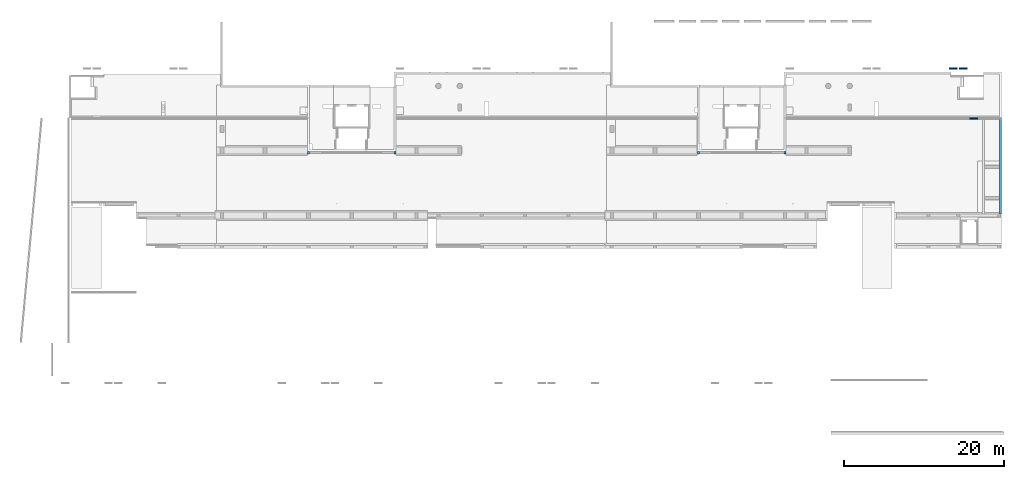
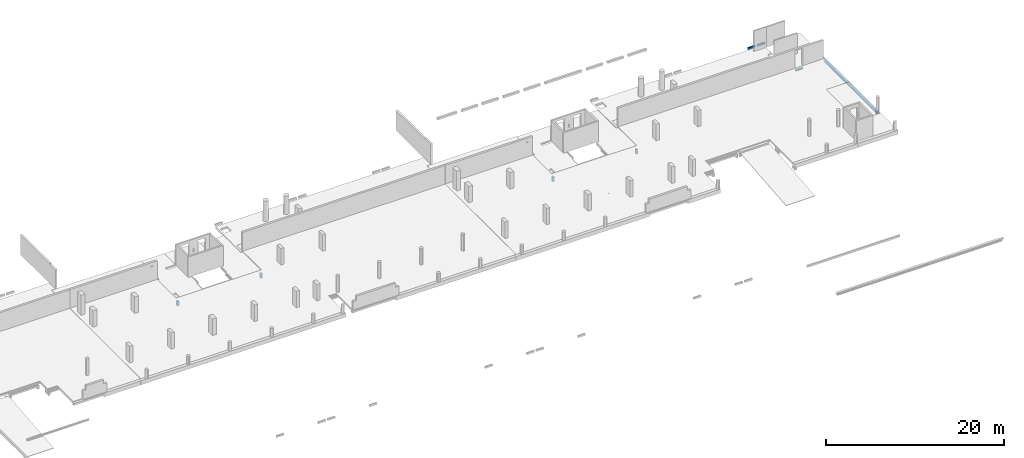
# One storey, part 3 of 10: 8 beams.
"""IFC2X3 building model written with IfcOpenShell, lengths in millimetres."""

from ifc_helpers import new_model, entity, si_unit, converted_unit, derived_unit, direction, frame, frame_2d, origin, place, context, subcontext, project, spatial, polyline, circle_curve, parameter, trimmed, segment, composite_curve, rectangle, i_section, outline, extrude, material, type_object, element, save


model = new_model("IFC2X3")

# Units and contexts
model_context = context("Model", 3, precision=0.01, world=origin(), true_north=direction((6.12303176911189e-17, 1.0)))
body_context = subcontext(model_context, "Body", "Model", "MODEL_VIEW")
ifc_project = project(units=[si_unit("LENGTHUNIT", "METRE", prefix="MILLI"), si_unit("AREAUNIT", "SQUARE_METRE"), si_unit("VOLUMEUNIT", "CUBIC_METRE"), converted_unit("PLANEANGLEUNIT", "DEGREE", entity("IfcRatioMeasure", 0.0174532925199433), si_unit("PLANEANGLEUNIT", "RADIAN"), dimensions=[0, 0, 0, 0, 0, 0, 0]), si_unit("MASSUNIT", "GRAM", prefix="KILO"), derived_unit("MASSDENSITYUNIT", [(si_unit("MASSUNIT", "GRAM", prefix="KILO"), 1), (si_unit("LENGTHUNIT", "METRE"), -3)]), si_unit("TIMEUNIT", "SECOND"), si_unit("FREQUENCYUNIT", "HERTZ"), si_unit("THERMODYNAMICTEMPERATUREUNIT", "DEGREE_CELSIUS"), derived_unit("THERMALTRANSMITTANCEUNIT", [(si_unit("MASSUNIT", "GRAM", prefix="KILO"), 1), (si_unit("THERMODYNAMICTEMPERATUREUNIT", "KELVIN"), -1), (si_unit("TIMEUNIT", "SECOND"), -3)]), derived_unit("VOLUMETRICFLOWRATEUNIT", [(si_unit("LENGTHUNIT", "METRE"), 3), (si_unit("TIMEUNIT", "SECOND"), -1)]), si_unit("ELECTRICCURRENTUNIT", "AMPERE"), si_unit("ELECTRICVOLTAGEUNIT", "VOLT"), si_unit("POWERUNIT", "WATT"), si_unit("FORCEUNIT", "NEWTON", prefix="KILO"), si_unit("ILLUMINANCEUNIT", "LUX"), si_unit("LUMINOUSFLUXUNIT", "LUMEN"), si_unit("LUMINOUSINTENSITYUNIT", "CANDELA"), derived_unit("USERDEFINED", [(si_unit("MASSUNIT", "GRAM", prefix="KILO"), -1), (si_unit("LENGTHUNIT", "METRE"), -2), (si_unit("TIMEUNIT", "SECOND"), 3), (si_unit("LUMINOUSFLUXUNIT", "LUMEN"), 1)]), derived_unit("LINEARVELOCITYUNIT", [(si_unit("LENGTHUNIT", "METRE"), 1), (si_unit("TIMEUNIT", "SECOND"), -1)]), si_unit("PRESSUREUNIT", "PASCAL"), derived_unit("USERDEFINED", [(si_unit("LENGTHUNIT", "METRE"), -2), (si_unit("MASSUNIT", "GRAM", prefix="KILO"), 1), (si_unit("TIMEUNIT", "SECOND"), -2)])], contexts=[model_context])

# Site, building, storey
site_placement = place(None, origin())
site = spatial("IfcSite", under=ifc_project, at=site_placement, Name="Default", CompositionType="ELEMENT")
building_placement = place(site_placement, origin())
building = spatial("IfcBuilding", under=site, at=building_placement, Name="niet gebruiken", CompositionType="ELEMENT")
storey_placement = place(building_placement, frame((0.0, 0.0, 6610.0)))
storey = spatial("IfcBuildingStorey", under=building, at=storey_placement, Name="01c derde tussenverdieping", CompositionType="ELEMENT", Elevation=6610.0)

# Beams
ifc_material_1 = material(Name="NLRS_h2_staal")
beam_type_1 = type_object("IfcBeamType", Name="NLRS_28.11_SF_WPB_stalen ligger hoekprofiel gelijkzijdig_gen:ligger gelijzijdig hoekprofiel LEQU_200x200x15", PredefinedType="BEAM")
beam_1_placement = place(storey_placement, frame((120225.0, 40968.5, -145.0)))
element("IfcBeam", 1, at=beam_1_placement, inside=storey, type_object=beam_type_1, material=ifc_material_1, Name="NLRS_28.11_SF_WPB_stalen ligger hoekprofiel gelijkzijdig_gen:ligger gelijzijdig hoekprofiel LEQU_200x200x15", ObjectType="NLRS_28.11_SF_WPB_stalen ligger hoekprofiel gelijkzijdig_gen:ligger gelijzijdig hoekprofiel LEQU_200x200x15", context=body_context, shape_type="SweptSolid", body=[
    extrude(outline(composite_curve([segment(polyline([(66.3333333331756, -126.666666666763), (73.3333333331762, -126.666666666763)]), True, "CONTINUOUS"), segment(polyline([(73.3333333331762, -126.666666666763), (73.3333333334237, 73.3333333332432)]), True, "CONTINUOUS"), segment(polyline([(73.3333333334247, 73.3333333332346), (-126.666666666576, 73.3333333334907)]), True, "CONTINUOUS"), segment(polyline([(-126.666666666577, 73.3333333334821), (-126.666666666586, 66.3333333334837)]), True, "CONTINUOUS"), segment(trimmed(circle_curve(frame_2d((-118.666666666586, 66.3333333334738), x_axis=(-1.0, 0.0)), 7.99999999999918), [parameter(0.0)], [parameter(90.0000000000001)], True, "PARAMETER"), True, "CONTINUOUS"), segment(polyline([(-118.666666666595, 58.3333333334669), (42.3333333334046, 58.3333333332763)]), True, "CONTINUOUS"), segment(trimmed(circle_curve(frame_2d((42.333333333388, 42.33333333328), x_axis=(0.0, 1.0)), 15.9999999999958), [parameter(269.999999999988)], [parameter(0.0)], True, "PARAMETER"), False, "CONTINUOUS"), segment(polyline([(58.3333333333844, 42.3333333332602), (58.3333333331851, -118.666666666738)]), True, "CONTINUOUS"), segment(trimmed(circle_curve(frame_2d((66.3333333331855, -118.666666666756), x_axis=(-1.0, 0.0)), 7.99999999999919), [parameter(0.0)], [parameter(90.0000000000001)], True, "PARAMETER"), True, "CONTINUOUS")], self_intersect=False)), frame((0.0, 19.166666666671, -126.666666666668), z_axis=(1.0, 0.0, 0.0), x_axis=(0.0, 0.0, -1.0)), (0.0, 0.0, 1.0), 1025.00000000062),
])
ifc_material_2 = material(Name="NLRS_f2_beton ihwg")
beam_type_2 = type_object("IfcBeamType", Name="NLRS_28.11_SF_WPB_oplegnok ihwg beton_gen:620x250", PredefinedType="BEAM")
beam_2_placement = place(storey_placement, frame((37800.0, 36856.0, -330.0), z_axis=(0.0, 0.0, 1.0), x_axis=(0.0, -1.0, 0.0)))
element("IfcBeam", 2, at=beam_2_placement, inside=storey, type_object=beam_type_2, material=ifc_material_2, Name="NLRS_28.11_SF_WPB_oplegnok ihwg beton_gen:620x250", ObjectType="NLRS_28.11_SF_WPB_oplegnok ihwg beton_gen:620x250", context=body_context, shape_type="SweptSolid", body=[
    extrude(rectangle(XDim=620.000000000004, YDim=249.999999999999, at=frame_2d((5.40012479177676e-13, -2.16715534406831e-12), x_axis=(1.0, 0.0))), frame((0.0, 0.0, -310.0), z_axis=(1.0, 0.0, 0.0), x_axis=(0.0, 0.0, -1.0)), (0.0, 0.0, 1.0), 299.999999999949),
])
beam_3_placement = place(storey_placement, frame((48600.0, 36856.0, -330.0), z_axis=(0.0, 0.0, 1.0), x_axis=(0.0, -1.0, 0.0)))
element("IfcBeam", 3, at=beam_3_placement, inside=storey, type_object=beam_type_2, material=ifc_material_2, Name="NLRS_28.11_SF_WPB_oplegnok ihwg beton_gen:620x250", ObjectType="NLRS_28.11_SF_WPB_oplegnok ihwg beton_gen:620x250", context=body_context, shape_type="SweptSolid", body=[
    extrude(rectangle(XDim=620.000000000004, YDim=250.000000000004, at=frame_2d((1.62003743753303e-12, -4.33431068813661e-12), x_axis=(1.0, 0.0))), frame((0.0, 0.0, -310.0), z_axis=(1.0, 0.0, 0.0), x_axis=(0.0, 0.0, -1.0)), (0.0, 0.0, 1.0), 299.99999999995),
])
beam_4_placement = place(storey_placement, frame((86400.0, 36856.0, -330.0), z_axis=(0.0, 0.0, 1.0), x_axis=(0.0, -1.0, 0.0)))
element("IfcBeam", 4, at=beam_4_placement, inside=storey, type_object=beam_type_2, material=ifc_material_2, Name="NLRS_28.11_SF_WPB_oplegnok ihwg beton_gen:620x250", ObjectType="NLRS_28.11_SF_WPB_oplegnok ihwg beton_gen:620x250", context=body_context, shape_type="SweptSolid", body=[
    extrude(rectangle(XDim=620.000000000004, YDim=250.000000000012, at=frame_2d((5.40012479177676e-13, 0.0), x_axis=(1.0, 0.0))), frame((0.0, 0.0, -310.0), z_axis=(1.0, 0.0, 0.0), x_axis=(0.0, 0.0, -1.0)), (0.0, 0.0, 1.0), 299.999999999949),
])
beam_5_placement = place(storey_placement, frame((97200.0, 36856.0, -330.0), z_axis=(0.0, 0.0, 1.0), x_axis=(0.0, -1.0, 0.0)))
element("IfcBeam", 5, at=beam_5_placement, inside=storey, type_object=beam_type_2, material=ifc_material_2, Name="NLRS_28.11_SF_WPB_oplegnok ihwg beton_gen:620x250", ObjectType="NLRS_28.11_SF_WPB_oplegnok ihwg beton_gen:620x250", context=body_context, shape_type="SweptSolid", body=[
    extrude(rectangle(XDim=620.000000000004, YDim=250.000000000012, at=frame_2d((1.62003743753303e-12, 0.0), x_axis=(1.0, 0.0))), frame((0.0, 0.0, -310.0), z_axis=(1.0, 0.0, 0.0), x_axis=(0.0, 0.0, -1.0)), (0.0, 0.0, 1.0), 299.99999999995),
])
beam_type_3 = type_object("IfcBeamType", Name="NLRS_28.11_SF_WPB_betonbalk ihwg recht_gen:180x250", PredefinedType="BEAM")
for number, where, name in (
    (6, (117705.0, 47236.0, -40.0), "NLRS_28.11_SF_WPB_betonbalk ihwg recht_gen:180x250"),
    (7, (118925.0, 47236.0, -40.0), "NLRS_28.11_SF_WPB_betonbalk ihwg recht_gen:180x250"),
):
    element("IfcBeam", number, at=place(storey_placement, frame(where)), inside=storey, type_object=beam_type_3, material=ifc_material_2, Name=name, ObjectType="NLRS_28.11_SF_WPB_betonbalk ihwg recht_gen:180x250", context=body_context, shape_type="SweptSolid", body=[
        extrude(rectangle(XDim=249.999999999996, YDim=180.000000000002, at=frame_2d((-5.40012479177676e-13, -4.33431068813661e-12), x_axis=(1.0, 0.0))), frame((0.0, 0.0, -125.0), z_axis=(1.0, 0.0, 0.0), x_axis=(0.0, 0.0, -1.0)), (0.0, 0.0, 1.0), 970.000000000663),
    ])
beam_type_4 = type_object("IfcBeamType", Name="NLRS_28.11_SF_WPB_stalen ligger HEA_gen:ligger HEA 260", PredefinedType="BEAM")
beam_6_placement = place(storey_placement, frame((124070.0, 41041.0, -80.0), z_axis=(0.0, 0.0, 1.0), x_axis=(0.0, -1.0, 0.0)))
element("IfcBeam", 8, at=beam_6_placement, inside=storey, type_object=beam_type_4, material=ifc_material_1, Name="NLRS_28.11_SF_WPB_stalen ligger HEA_gen:ligger HEA 260", ObjectType="NLRS_28.11_SF_WPB_stalen ligger HEA_gen:ligger HEA 260", context=body_context, shape_type="SweptSolid", body=[
    extrude(i_section(OverallWidth=260.00000000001, OverallDepth=250.000000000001, WebThickness=7.49999999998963, FlangeThickness=12.4999999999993, FilletRadius=23.9999999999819, at=frame_2d((-1.62714286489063e-12, 0.0), x_axis=(0.0, 1.0))), frame((0.0, 0.0, -125.0), z_axis=(1.0, 0.0, 0.0), x_axis=(0.0, 0.0, -1.0)), (0.0, 0.0, 1.0), 11939.9999999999),
])

save(model, "model.ifc")
